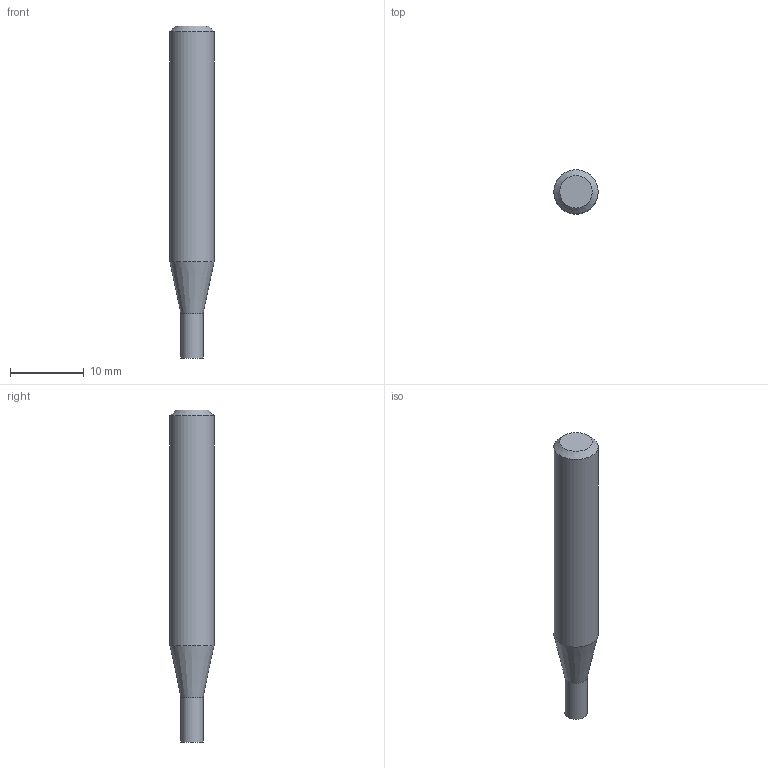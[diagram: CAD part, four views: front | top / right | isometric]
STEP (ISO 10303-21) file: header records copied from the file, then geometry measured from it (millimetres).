
FILE_DESCRIPTION((''),'2;1');
FILE_NAME('C:\Users\nsx150\AppData\Local\Temp\Mastercam 2021\E36A1X9CCL\TEMP.step','2023-04-21T15:12:39',(''),(''),'STEP Write','Mastercam 2021 ... CNC Software, Inc.','');
FILE_SCHEMA(('AUTOMOTIVE_DESIGN'));
Length unit declared in the file: millimetre
Products named in the file (1): None
Bounding box: 6 x 6 x 45 mm (x, y, z)
Volume: 1056.5 mm3; surface area: 800.5 mm2
Topology: 2 solids, 2 shells, 8 faces, 10 edges, 6 vertices
Faces by surface type: plane 4, cylinder 2, cone 2
Full cylindrical faces by diameter (mm): 3 x1, 6 x1
Entity records: 190 total; most frequent: DIRECTION 32, CARTESIAN_POINT 22, AXIS2_PLACEMENT_3D 16, ORIENTED_EDGE 12, EDGE_LOOP 12, STYLED_ITEM 11, ADVANCED_FACE 8, VERTEX_POINT 6
